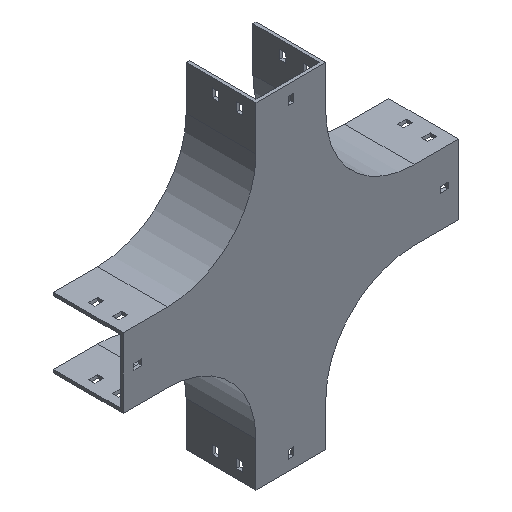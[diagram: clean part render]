
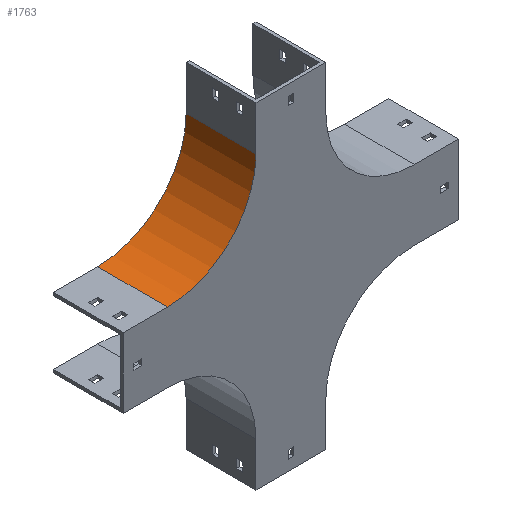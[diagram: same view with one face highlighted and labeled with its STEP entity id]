
A CAD part, isometric view. The second image highlights one B-rep face of the part: STEP entity #1763.
In plain terms, the highlighted cylindrical face has radius 100 mm (diameter 200 mm), a partial arc.
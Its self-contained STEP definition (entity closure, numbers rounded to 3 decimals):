
#5 = DIRECTION ( 'NONE',  ( 0., -1., 0. ) ) ;
#40 = VERTEX_POINT ( 'NONE', #2208 ) ;
#146 = DIRECTION ( 'NONE',  ( 0., -1., 0. ) ) ;
#215 = ORIENTED_EDGE ( 'NONE', *, *, #1223, .T. ) ;
#255 = DIRECTION ( 'NONE',  ( 0., -1., 0. ) ) ;
#267 = AXIS2_PLACEMENT_3D ( 'NONE', #1960, #477, #1979 ) ;
#269 = DIRECTION ( 'NONE',  ( 0., -1., 0. ) ) ;
#474 = CARTESIAN_POINT ( 'NONE',  ( -279., 0., -100. ) ) ;
#477 = DIRECTION ( 'NONE',  ( 0., -1., 0. ) ) ;
#561 = ORIENTED_EDGE ( 'NONE', *, *, #982, .F. ) ;
#590 = AXIS2_PLACEMENT_3D ( 'NONE', #2693, #5, #1147 ) ;
#982 = EDGE_CURVE ( 'NONE', #40, #2465, #2278, .T. ) ;
#1046 = VECTOR ( 'NONE', #269, 1000. ) ;
#1106 = VERTEX_POINT ( 'NONE', #3020 ) ;
#1134 = EDGE_CURVE ( 'NONE', #1352, #1106, #1280, .T. ) ;
#1147 = DIRECTION ( 'NONE',  ( 0., 0., 1. ) ) ;
#1152 = LINE ( 'NONE', #2987, #2228 ) ;
#1223 = EDGE_CURVE ( 'NONE', #40, #1352, #2332, .T. ) ;
#1280 = CIRCLE ( 'NONE', #267, 100. ) ;
#1352 = VERTEX_POINT ( 'NONE', #474 ) ;
#1723 = AXIS2_PLACEMENT_3D ( 'NONE', #2586, #146, #2247 ) ;
#1763 = ADVANCED_FACE ( 'NONE', ( #3305 ), #3025, .F. ) ;
#1859 = EDGE_LOOP ( 'NONE', ( #2036, #2480, #561, #215 ) ) ;
#1960 = CARTESIAN_POINT ( 'NONE',  ( -279., 0., 0. ) ) ;
#1979 = DIRECTION ( 'NONE',  ( 0., 0., 1. ) ) ;
#2036 = ORIENTED_EDGE ( 'NONE', *, *, #1134, .T. ) ;
#2137 = CARTESIAN_POINT ( 'NONE',  ( -179., 79., 0. ) ) ;
#2208 = CARTESIAN_POINT ( 'NONE',  ( -279., 79., -100. ) ) ;
#2228 = VECTOR ( 'NONE', #255, 1000. ) ;
#2247 = DIRECTION ( 'NONE',  ( 0., 0., -1. ) ) ;
#2278 = CIRCLE ( 'NONE', #590, 100. ) ;
#2332 = LINE ( 'NONE', #2958, #1046 ) ;
#2465 = VERTEX_POINT ( 'NONE', #2137 ) ;
#2480 = ORIENTED_EDGE ( 'NONE', *, *, #2960, .F. ) ;
#2586 = CARTESIAN_POINT ( 'NONE',  ( -279., 79., 0. ) ) ;
#2693 = CARTESIAN_POINT ( 'NONE',  ( -279., 79., 0. ) ) ;
#2958 = CARTESIAN_POINT ( 'NONE',  ( -279., 79., -100. ) ) ;
#2960 = EDGE_CURVE ( 'NONE', #2465, #1106, #1152, .T. ) ;
#2987 = CARTESIAN_POINT ( 'NONE',  ( -179., 79., 0. ) ) ;
#3020 = CARTESIAN_POINT ( 'NONE',  ( -179., 0., 0. ) ) ;
#3025 = CYLINDRICAL_SURFACE ( 'NONE', #1723, 100. ) ;
#3305 = FACE_OUTER_BOUND ( 'NONE', #1859, .T. ) ;
